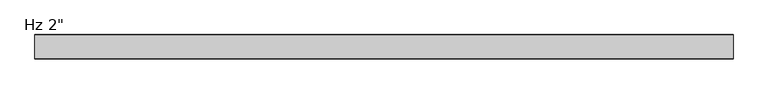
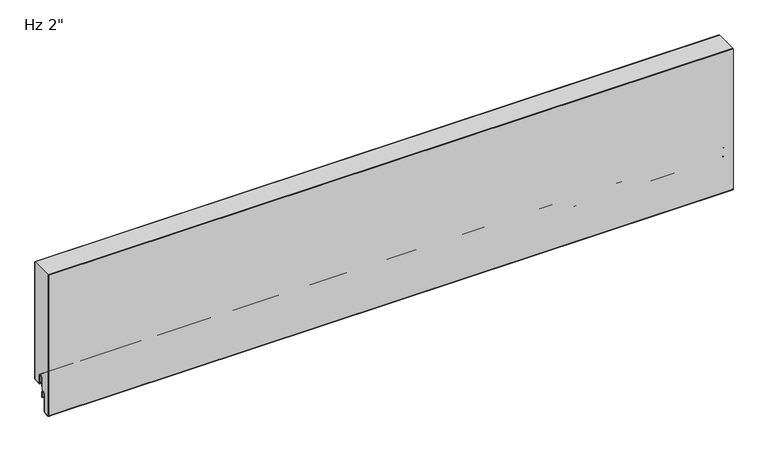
"""IFC4 building model written with IfcOpenShell, lengths in millimetres: plate geometry."""

from ifc_helpers import new_model, si_unit, point, frame, frame_2d, origin, place, context, project, spatial, polyline, circle_curve, trimmed, segment, composite_curve, outline, extrude, source, transform, mapped, element, save


def plate_0339fd76(model_context):
    return source(origin(), model_context, "Body", "SweptSolid", [
        extrude(outline(composite_curve([segment(polyline([(-49.8, -50.6719361), (-49.8, 266.4), (-1.0, 266.4), (-1.0, 3.175)]), True, "CONTINUOUS"), segment(trimmed(circle_curve(frame_2d((-2.38125, 3.175)), 1.38125), [point((-1.0, 3.175))], [point((-2.38125, 1.79375))], False, "CARTESIAN"), True, "CONTINUOUS"), segment(polyline([(-2.38125, 1.79375), (-15.08125, 1.79375)]), True, "CONTINUOUS"), segment(trimmed(circle_curve(frame_2d((-15.08125, 3.175)), 1.38125), [point((-15.08125, 1.79375))], [point((-16.4625, 3.175))], False, "CARTESIAN"), True, "CONTINUOUS"), segment(polyline([(-16.4625, 3.175), (-16.4625, 19.05)]), True, "CONTINUOUS"), segment(trimmed(circle_curve(frame_2d((-21.43125, 19.05)), 4.96875), [point((-16.4625, 19.05))], [point((-26.4, 19.05))], True, "CARTESIAN"), True, "CONTINUOUS"), segment(polyline([(-26.4, 19.05), (-26.4, -6.9375), (-30.95625, -6.9375)]), True, "CONTINUOUS"), segment(trimmed(circle_curve(frame_2d((-30.95625, -11.90625)), 4.96875), [point((-30.95625, -6.9375))], [point((-35.925, -11.90625))], True, "CARTESIAN"), True, "CONTINUOUS"), segment(polyline([(-35.925, -11.90625), (-35.925, -50.0895546)]), True, "CONTINUOUS"), segment(trimmed(circle_curve(frame_2d((-37.30625, -50.0895546)), 1.38125), [point((-35.925, -50.0895546))], [point((-37.233961, -51.4689117))], False, "CARTESIAN"), True, "CONTINUOUS"), segment(polyline([(-37.233961, -51.4689117), (-48.346461, -52.0512931)]), True, "CONTINUOUS"), segment(trimmed(circle_curve(frame_2d((-48.41875, -50.6719361)), 1.38125), [point((-48.346461, -52.0512931))], [point((-49.8, -50.6719361))], False, "CARTESIAN"), True, "CONTINUOUS")], self_intersect=False)), frame((-730.0, 0.0, 0.0), z_axis=(1.0, 0.0, 0.0), x_axis=(0.0, 1.0, 0.0)), (0.0, 0.0, 1.0), 1460.0),
        extrude(outline(composite_curve([segment(polyline([(-25.4, 0.79375), (-26.4, 0.79375), (-26.4, 19.05)]), True, "CONTINUOUS"), segment(trimmed(circle_curve(frame_2d((-21.43125, 19.05)), 4.96875), [point((-26.4, 19.05))], [point((-16.4625, 19.05))], False, "CARTESIAN"), True, "CONTINUOUS"), segment(polyline([(-16.4625, 19.05), (-16.4625, 3.175)]), True, "CONTINUOUS"), segment(trimmed(circle_curve(frame_2d((-15.08125, 3.175)), 1.38125), [point((-16.4625, 3.175))], [point((-15.08125, 1.79375))], True, "CARTESIAN"), True, "CONTINUOUS"), segment(polyline([(-15.08125, 1.79375), (-2.38125, 1.79375)]), True, "CONTINUOUS"), segment(trimmed(circle_curve(frame_2d((-2.38125, 3.175)), 1.38125), [point((-2.38125, 1.79375))], [point((-1.0, 3.175))], True, "CARTESIAN"), True, "CONTINUOUS"), segment(polyline([(-1.0, 3.175), (-1.0, 266.4), (0.0, 266.4), (0.0, 3.175)]), True, "CONTINUOUS"), segment(trimmed(circle_curve(frame_2d((-2.38125, 3.175)), 2.38125), [point((0.0, 3.175))], [point((-2.38125, 0.79375))], False, "CARTESIAN"), True, "CONTINUOUS"), segment(polyline([(-2.38125, 0.79375), (-15.08125, 0.79375)]), True, "CONTINUOUS"), segment(trimmed(circle_curve(frame_2d((-15.08125, 3.175)), 2.38125), [point((-15.08125, 0.79375))], [point((-17.4625, 3.175))], False, "CARTESIAN"), True, "CONTINUOUS"), segment(polyline([(-17.4625, 3.175), (-17.4625, 19.05)]), True, "CONTINUOUS"), segment(trimmed(circle_curve(frame_2d((-21.43125, 19.05)), 3.96875), [point((-17.4625, 19.05))], [point((-25.4, 19.05))], True, "CARTESIAN"), True, "CONTINUOUS"), segment(polyline([(-25.4, 19.05), (-25.4, 0.79375)]), True, "CONTINUOUS")], self_intersect=False)), frame((-730.0, 0.0, 0.0), z_axis=(1.0, 0.0, 0.0), x_axis=(0.0, 1.0, 0.0)), (0.0, 0.0, 1.0), 1460.0),
        extrude(outline(composite_curve([segment(trimmed(circle_curve(frame_2d((-26.19375, -23.2314549)), 0.79375), [point((-25.4, -23.2314549))], [point((-26.9875, -23.2314549))], False, "CARTESIAN"), True, "CONTINUOUS"), segment(polyline([(-26.9875, -23.2314549), (-26.9875, -11.9205174)]), True, "CONTINUOUS"), segment(trimmed(circle_curve(frame_2d((-30.95625, -11.9205174)), 3.96875), [point((-26.9875, -11.9205174))], [point((-34.925, -11.9205174))], True, "CARTESIAN"), True, "CONTINUOUS"), segment(polyline([(-34.925, -11.9205174), (-34.925, -50.1038221)]), True, "CONTINUOUS"), segment(trimmed(circle_curve(frame_2d((-37.30625, -50.1038221)), 2.38125), [point((-34.925, -50.1038221))], [point((-37.181625, -52.4818086))], False, "CARTESIAN"), True, "CONTINUOUS"), segment(polyline([(-37.181625, -52.4818086), (-48.294125, -53.0641901)]), True, "CONTINUOUS"), segment(trimmed(circle_curve(frame_2d((-48.41875, -50.6862035)), 2.38125), [point((-48.294125, -53.0641901))], [point((-50.8, -50.6862035))], False, "CARTESIAN"), True, "CONTINUOUS"), segment(polyline([(-50.8, -50.6862035), (-50.8, 266.4), (-49.8, 266.4), (-49.8, -50.6862035)]), True, "CONTINUOUS"), segment(trimmed(circle_curve(frame_2d((-48.41875, -50.6862035)), 1.38125), [point((-49.8, -50.6862035))], [point((-48.346461, -52.0655606))], True, "CARTESIAN"), True, "CONTINUOUS"), segment(polyline([(-48.346461, -52.0655606), (-37.233961, -51.4831791)]), True, "CONTINUOUS"), segment(trimmed(circle_curve(frame_2d((-37.30625, -50.1038221)), 1.38125), [point((-37.233961, -51.4831791))], [point((-35.925, -50.1038221))], True, "CARTESIAN"), True, "CONTINUOUS"), segment(polyline([(-35.925, -50.1038221), (-35.925, -11.9205174)]), True, "CONTINUOUS"), segment(trimmed(circle_curve(frame_2d((-30.95625, -11.9205174)), 4.96875), [point((-35.925, -11.9205174))], [point((-25.9875, -11.9205174))], False, "CARTESIAN"), True, "CONTINUOUS"), segment(polyline([(-25.9875, -11.9205174), (-26.19375, -13.5080174), (-25.4, -13.5080174), (-25.4, -23.2314549)]), True, "CONTINUOUS")], self_intersect=False)), frame((-730.0, 0.0, 0.0), z_axis=(1.0, 0.0, 0.0), x_axis=(0.0, 1.0, 0.0)), (0.0, 0.0, 1.0), 1460.0),
    ])


if __name__ == "__main__":
    model = new_model("IFC4")
    model_context = context("Model", 3, world=origin())
    ifc_project = project(units=[si_unit("LENGTHUNIT", "METRE", prefix="MILLI")], contexts=[model_context])
    site = spatial("IfcSite", under=ifc_project)
    building = spatial("IfcBuilding", under=site)
    placement = place(None, origin())
    plate_shape = plate_0339fd76(model_context)
    element("IfcPlate", 1, ObjectType="KIP-42-DWHR-R19-CP-Hz-F : Hz 2\"", at=placement, inside=building, context=model_context, shape_type="MappedRepresentation", body=[
        mapped(plate_shape, transform((0.0, 0.0, 0.0), x_axis=(1.0, 0.0, 0.0), y_axis=(0.0, 1.0, 0.0), z_axis=(0.0, 0.0, 1.0))),
    ])
    save(model, "model.ifc")
